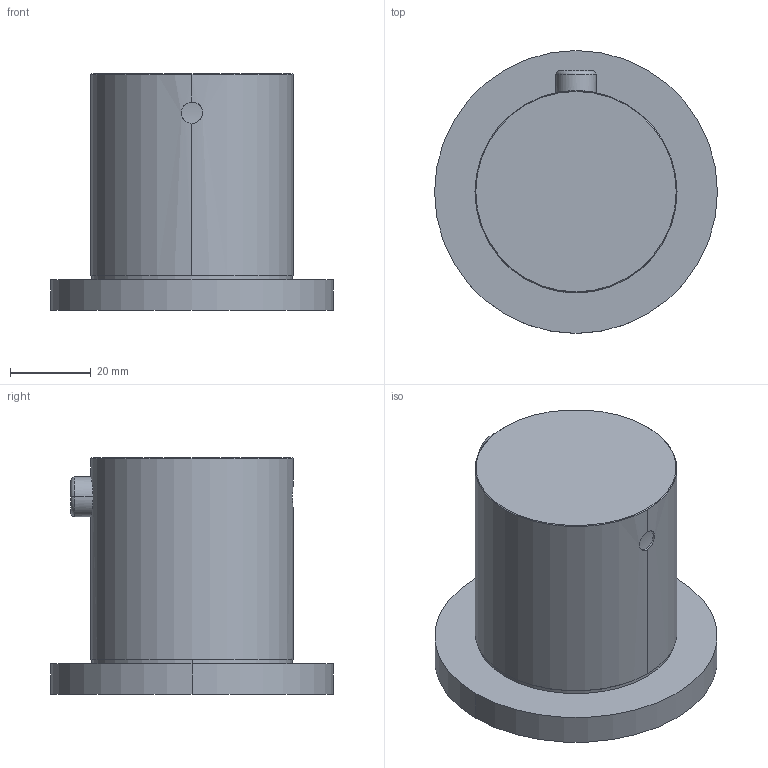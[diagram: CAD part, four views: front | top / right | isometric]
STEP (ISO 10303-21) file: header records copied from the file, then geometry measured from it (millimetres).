
FILE_DESCRIPTION((''),'2;1');
FILE_NAME('DIS_3D_H700B_H500A','2026-02-09T10:47:40',('Luca'),(''),'CREO PARAMETRIC BY PTC INC, 2025010','CREO PARAMETRIC BY PTC INC, 2025010','');
FILE_SCHEMA(('AUTOMOTIVE_DESIGN { 1 0 10303 214 1 1 1 1 }'));
Length unit declared in the file: millimetre
Products named in the file (1): DIS_3D_H700B_H500A
Bounding box: 70 x 70 x 58.5 mm (x, y, z)
Volume: 129253.4 mm3; surface area: 17935.8 mm2
Topology: 1 solids, 2 shells, 27 faces, 52 edges, 32 vertices
Faces by surface type: cylinder 16, plane 7, cone 2, torus 2
Entity records: 1368 total; most frequent: CARTESIAN_POINT 657, DIRECTION 137, ORIENTED_EDGE 104, AXIS2_PLACEMENT_3D 58, EDGE_CURVE 52, VERTEX_POINT 32, EDGE_LOOP 30, FACE_OUTER_BOUND 27
